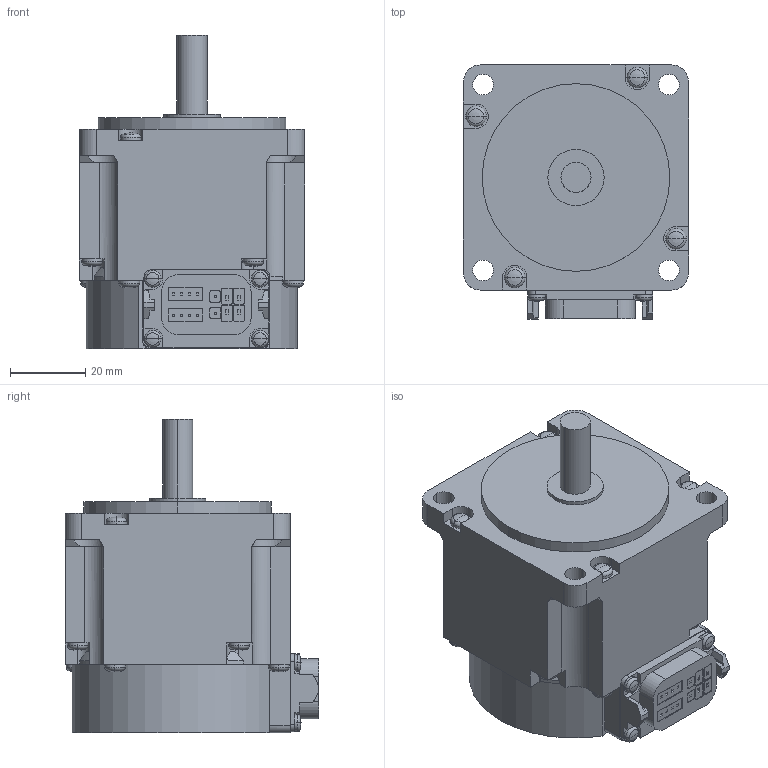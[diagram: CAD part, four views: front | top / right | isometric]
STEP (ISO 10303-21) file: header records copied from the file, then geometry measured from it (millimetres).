
FILE_DESCRIPTION((''),'2;1');
FILE_NAME('HK-KT13UW_-_ASM','2019-01-15T',('XE90682'),(''),'CREO PARAMETRIC BY PTC INC, 2016380','CREO PARAMETRIC BY PTC INC, 2016380','');
FILE_SCHEMA(('CONFIG_CONTROL_DESIGN'));
Length unit declared in the file: millimetre
Products named in the file (1): HK-KT13UW_-_ASM
Bounding box: 60 x 67.65 x 83.5 mm (x, y, z)
Volume: 188884.4 mm3; surface area: 22653.8 mm2
Topology: 1 solids, 1 shells, 401 faces, 1042 edges, 654 vertices
Faces by surface type: plane 221, cylinder 113, torus 32, sphere 32, cone 3
Entity records: 12237 total; most frequent: CARTESIAN_POINT 2277, DIRECTION 2120, ORIENTED_EDGE 2020, EDGE_CURVE 1010, AXIS2_PLACEMENT_3D 726, VECTOR 668, LINE 668, VERTEX_POINT 654
